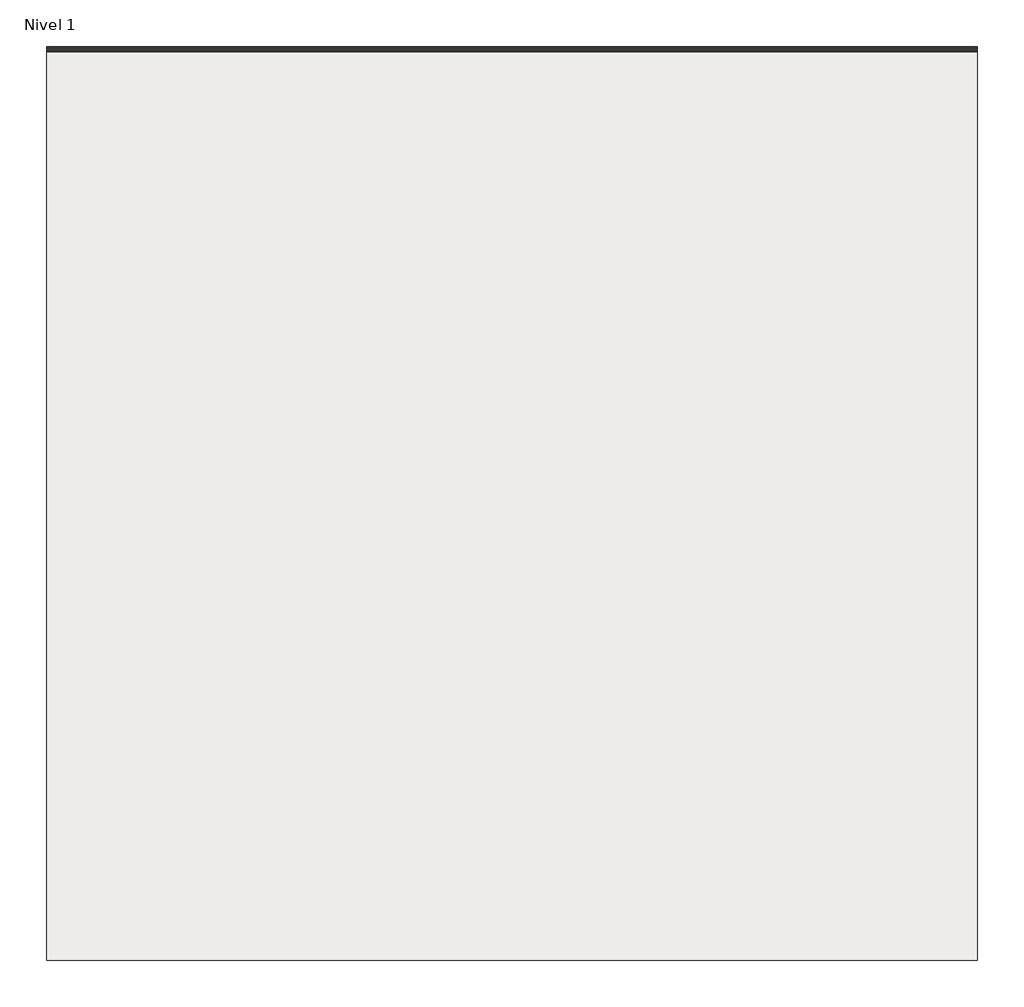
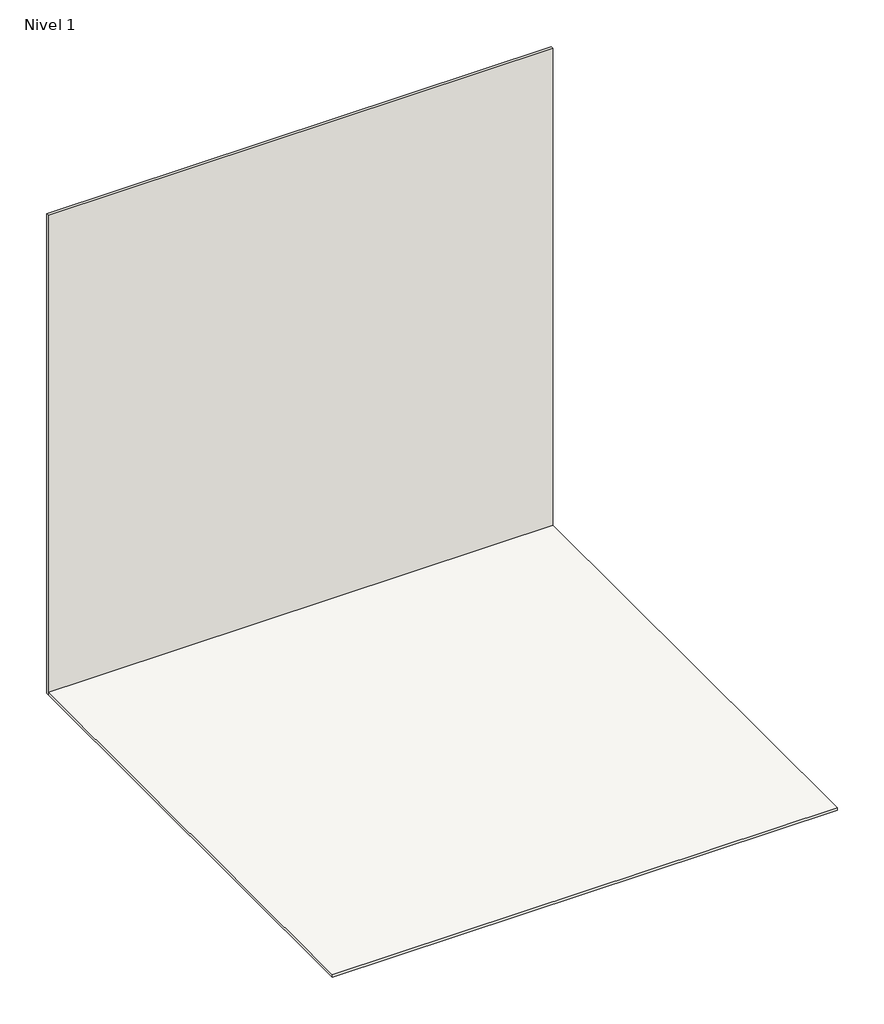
# One storey: 1 slab, 1 wall.
"""IFC4 building model written with IfcOpenShell, lengths in millimetres."""

import ifcopenshell
import ifcopenshell.guid

model = None  # the IFC model being written
_history = None  # IfcOwnerHistory: only IFC2X3 demands one
_inside = {}  # id of a spatial element -> (the spatial element, [elements in it])
_under = {}  # id of a project, library or spatial element -> (it, [spatial elements below it])
_declared = {}  # id of a project -> (the project, [libraries it declares])
_typed = {}  # id of a type object -> (the type object, [elements of that type])
_made_of = {}  # id of a material, layer set ... -> (it, [elements and type objects made of it])


def new_model(schema):
    """Start an empty IFC model of exactly this schema.

    Asked for "IFC4X3", IfcOpenShell would pick the latest addendum, in which some entities
    have other attributes; the version numbers below select the first issue.
    IFC2X3 requires an IfcOwnerHistory on every rooted entity: one is made here for all.
    """
    global model, _history
    if schema == "IFC4X3":
        model = ifcopenshell.file(schema_version=(4, 3, 0, 0))
    else:
        model = ifcopenshell.file(schema=schema)
    _inside.clear()
    _under.clear()
    _declared.clear()
    _typed.clear()
    _made_of.clear()
    _history = None
    if model.schema == "IFC2X3":
        org = make("IfcOrganization", Name="unknown")
        user = make(
            "IfcPersonAndOrganization",
            ThePerson=make("IfcPerson", FamilyName="unknown"),
            TheOrganization=org,
        )
        app = make(
            "IfcApplication",
            ApplicationDeveloper=org,
            Version="unknown",
            ApplicationFullName="unknown",
            ApplicationIdentifier="unknown",
        )
        _history = make(
            "IfcOwnerHistory",
            OwningUser=user,
            OwningApplication=app,
            ChangeAction="ADDED",
            CreationDate=0,
        )
    return model


def make(cls, **values):
    """One entity of the class cls with the attributes given. An attribute that is None is left unset."""
    return model.create_entity(
        cls, **{name: value for name, value in values.items() if value is not None}
    )


def rooted(cls, **values):
    """An entity with a GlobalId (a new one), such as an element, a storey or a relation."""
    return make(cls, GlobalId=ifcopenshell.guid.new(), OwnerHistory=_history, **values)


def si_unit(unit_type, name, prefix=None):
    """IfcSIUnit, for example si_unit("LENGTHUNIT", "METRE", prefix="MILLI")."""
    return make("IfcSIUnit", UnitType=unit_type, Prefix=prefix, Name=name)


def assignment(units):
    """IfcUnitAssignment: the units of a project."""
    return None if units is None else make("IfcUnitAssignment", Units=units)


def point(xyz):
    """IfcCartesianPoint."""
    return None if xyz is None else make("IfcCartesianPoint", Coordinates=xyz)


def direction(xyz):
    """IfcDirection."""
    return None if xyz is None else make("IfcDirection", DirectionRatios=xyz)


def frame(location, z_axis=None, x_axis=None):
    """IfcAxis2Placement3D, a coordinate frame: its origin and axes. An axis left out is left unset."""
    return make(
        "IfcAxis2Placement3D",
        Location=point(location),
        Axis=direction(z_axis),
        RefDirection=direction(x_axis),
    )


def origin():
    """The frame at (0, 0, 0) with its axes left unset."""
    return frame((0.0, 0.0, 0.0))


def place(relative_to, where):
    """IfcLocalPlacement: puts the frame where relative to a parent placement (None: the world)."""
    return make(
        "IfcLocalPlacement", PlacementRelTo=relative_to, RelativePlacement=where
    )


def context(
    kind, dimensions, precision=None, world=None, true_north=None, identifier=None
):
    """IfcGeometricRepresentationContext, for example the 3D "Model" context."""
    return make(
        "IfcGeometricRepresentationContext",
        ContextIdentifier=identifier,
        ContextType=kind,
        CoordinateSpaceDimension=dimensions,
        Precision=precision,
        WorldCoordinateSystem=world,
        TrueNorth=true_north,
    )


def project(units=None, contexts=None):
    """IfcProject with its units and contexts."""
    return rooted(
        "IfcProject",
        Name="project",
        RepresentationContexts=contexts,
        UnitsInContext=assignment(units),
    )


def spatial(cls, under=None, at=None, **own):
    """A site, building, storey or space (cls), placed at a placement, below another one or the project."""
    s = rooted(cls, ObjectPlacement=at, **own)
    if under is not None:
        _under.setdefault(under.id(), (under, []))[1].append(s)
    return s


def polyline(points):
    """IfcPolyline through the points."""
    return make("IfcPolyline", Points=[point(p) for p in points])


def outline(outer, holes=None, kind="AREA"):
    """IfcArbitraryClosedProfileDef: a profile drawn as a closed curve; with holes, ...WithVoids."""
    if holes is None:
        return make("IfcArbitraryClosedProfileDef", ProfileType=kind, OuterCurve=outer)
    return make(
        "IfcArbitraryProfileDefWithVoids",
        ProfileType=kind,
        OuterCurve=outer,
        InnerCurves=holes,
    )


def extrude(swept, where, along, depth):
    """IfcExtrudedAreaSolid: the profile swept, set in the frame where, extruded along a direction by depth."""
    return make(
        "IfcExtrudedAreaSolid",
        SweptArea=swept,
        Position=where,
        ExtrudedDirection=direction(along),
        Depth=depth,
    )


def shape(context_of_items, identifier, shape_type, items):
    """IfcShapeRepresentation: the items that make up one representation, for example the "Body"."""
    return make(
        "IfcShapeRepresentation",
        ContextOfItems=context_of_items,
        RepresentationIdentifier=identifier,
        RepresentationType=shape_type,
        Items=items,
    )


def made_of(thing, what):
    """Note that an element or type object is made of a material, layer set ...; save() writes the relation."""
    if what is not None:
        _made_of.setdefault(what.id(), (what, []))[1].append(thing)
    return thing


def element(
    cls,
    number,
    at=None,
    inside=None,
    cuts=None,
    type_object=None,
    material=None,
    context=None,
    identifier="Body",
    shape_type=None,
    held_by="IfcProductDefinitionShape",
    body=None,
    shapes=None,
    **own,
):
    """One element of the class cls, such as IfcWall. Its Tag is "e" and its number.

    at: its placement. inside: the storey or other place that contains it. cuts: it is an
    opening in that element (IfcRelVoidsElement). A single representation is given by context,
    identifier, shape_type and body (its items); several are given by shapes. held_by: the class
    of the entity that holds the representations. save() writes the other relations.
    """
    e = rooted(cls, Tag="e%d" % number, ObjectPlacement=at, **own)
    if body is not None:
        shapes = [shape(context, identifier, shape_type, body)]
    if shapes is not None:
        e.Representation = make(held_by, Representations=shapes)
    if inside is not None:
        _inside.setdefault(inside.id(), (inside, []))[1].append(e)
    if cuts is not None:
        rooted(
            "IfcRelVoidsElement", RelatingBuildingElement=cuts, RelatedOpeningElement=e
        )
    if type_object is not None:
        _typed.setdefault(type_object.id(), (type_object, []))[1].append(e)
    return made_of(e, material)


def aggregate(whole, parts):
    """IfcRelAggregates: a whole, such as a stair, and the parts it consists of."""
    return rooted("IfcRelAggregates", RelatingObject=whole, RelatedObjects=parts)


def save(model, path):
    """Write the relations noted so far, then the file.

    IfcRelAggregates (storeys below a building ...), IfcRelContainedInSpatialStructure (elements
    in a storey), IfcRelDefinesByType, IfcRelAssociatesMaterial and IfcRelDeclares: one each for
    every whole, place, type object, material and project.
    """
    for whole, parts in _under.values():
        aggregate(whole, parts)
    for where, things in _inside.values():
        rooted(
            "IfcRelContainedInSpatialStructure",
            RelatedElements=things,
            RelatingStructure=where,
        )
    for kind, things in _typed.values():
        rooted("IfcRelDefinesByType", RelatedObjects=things, RelatingType=kind)
    for what, things in _made_of.values():
        rooted("IfcRelAssociatesMaterial", RelatedObjects=things, RelatingMaterial=what)
    for by, libraries in _declared.values():
        rooted("IfcRelDeclares", RelatingContext=by, RelatedDefinitions=libraries)
    model.write(path)


model = new_model("IFC4")

# Units and contexts
model_context = context("Model", 3, world=origin())
ifc_project = project(units=[si_unit("LENGTHUNIT", "METRE", prefix="MILLI")], contexts=[model_context])

# Site, building, storey
site = spatial("IfcSite", under=ifc_project)
building = spatial("IfcBuilding", under=site)
storey = spatial("IfcBuildingStorey", under=building, Name="Nivel 1", Elevation=0.0)

# Slab
placement = place(None, origin())
element("IfcSlab", 1, ObjectType="Grespania - Coverlam 1200x2600 Iceberg", at=placement, inside=storey, context=model_context, shape_type="SweptSolid", body=[
    extrude(outline(polyline([(2344.0919037, 6894.6717724), (2344.0919037, 4161.0366018), (-455.9080963, 4161.0366018), (-455.9080963, 6894.6717724), (2344.0919037, 6894.6717724)])), frame((0.0, 0.0, -15.0), z_axis=(0.0, 0.0, 1.0), x_axis=(1.0, 0.0, 0.0)), (0.0, 0.0, 1.0), 15.0),
])

# Wall
element("IfcWall", 2, ObjectType="Grespania - Coverlam 1200x2600 Iceberg", at=placement, inside=storey, context=model_context, shape_type="SweptSolid", body=[
    extrude(outline(polyline([(2344.0919037, 6894.6717724), (-455.9080963, 6894.6717724), (-455.9080963, 6909.6717724), (2344.0919037, 6909.6717724), (2344.0919037, 6894.6717724)])), frame((0.0, 0.0, -15.0), z_axis=(0.0, 0.0, 1.0), x_axis=(1.0, 0.0, 0.0)), (0.0, 0.0, 1.0), 2815.0),
])

save(model, "model.ifc")
